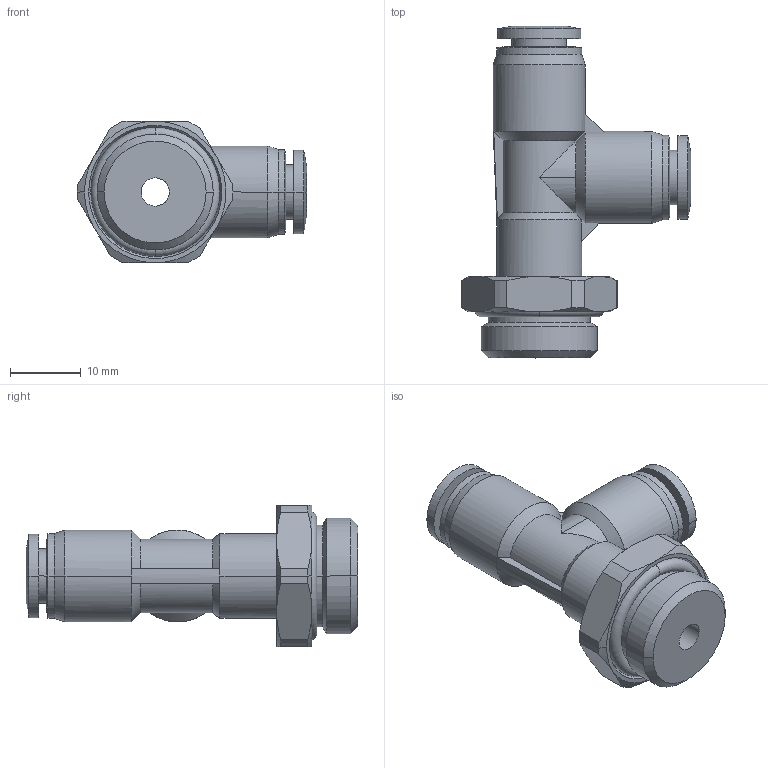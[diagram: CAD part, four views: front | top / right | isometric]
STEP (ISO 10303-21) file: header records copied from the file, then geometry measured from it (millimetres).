
FILE_DESCRIPTION (( 'STEP AP203' ), '1' );
FILE_NAME ('FLT06-03.STEP', '2020-05-12T14:15:43', ( '' ), ( '' ), 'SwSTEP 2.0', 'SolidWorks 2019', '' );
FILE_SCHEMA (( 'CONFIG_CONTROL_DESIGN' ));
Length unit declared in the file: millimetre
Products named in the file (1): FLT06-03
Bounding box: 32.4 x 46.9 x 20 mm (x, y, z)
Surface area: 5058.6 mm2 (no closed solid volume)
Topology: 0 solids, 4 shells, 118 faces, 286 edges, 179 vertices
Faces by surface type: cylinder 44, cone 38, plane 27, bspline 5, torus 4
Entity records: 5759 total; most frequent: CARTESIAN_POINT 3422, ORIENTED_EDGE 556, DIRECTION 291, EDGE_CURVE 286, B_SPLINE_CURVE_WITH_KNOTS 215, VERTEX_POINT 179, EDGE_LOOP 131, AXIS2_PLACEMENT_3D 118
